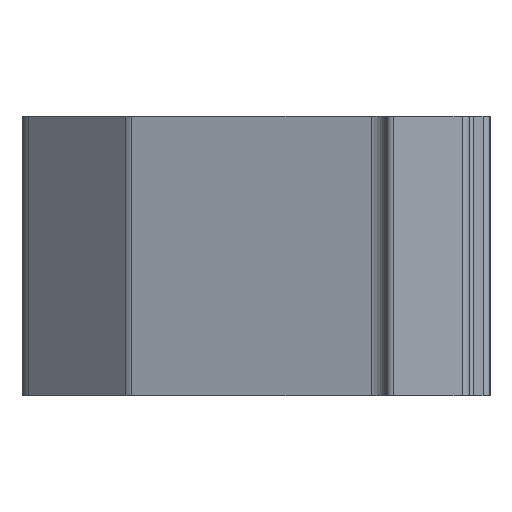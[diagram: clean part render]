
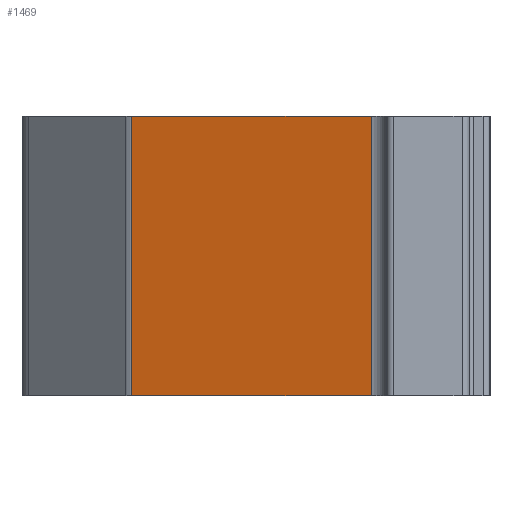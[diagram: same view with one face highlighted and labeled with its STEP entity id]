
A CAD part, front view. The second image highlights one B-rep face of the part: STEP entity #1469.
In plain terms, the highlighted planar face has unit normal (-0.258, -0.966, 0).
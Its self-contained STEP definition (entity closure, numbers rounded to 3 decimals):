
#47 = DIRECTION ( 'NONE',  ( 0.966, -0.258, 0. ) ) ;
#64 = EDGE_CURVE ( 'NONE', #1033, #815, #654, .T. ) ;
#99 = ORIENTED_EDGE ( 'NONE', *, *, #64, .T. ) ;
#138 = ORIENTED_EDGE ( 'NONE', *, *, #1009, .T. ) ;
#353 = EDGE_CURVE ( 'NONE', #361, #905, #946, .T. ) ;
#361 = VERTEX_POINT ( 'NONE', #817 ) ;
#408 = PLANE ( 'NONE',  #549 ) ;
#453 = DIRECTION ( 'NONE',  ( 0., 0., -1. ) ) ;
#475 = ORIENTED_EDGE ( 'NONE', *, *, #665, .F. ) ;
#509 = FACE_OUTER_BOUND ( 'NONE', #918, .T. ) ;
#535 = DIRECTION ( 'NONE',  ( 0., 0., -1. ) ) ;
#549 = AXIS2_PLACEMENT_3D ( 'NONE', #1200, #1315, #1312 ) ;
#569 = LINE ( 'NONE', #1122, #1034 ) ;
#654 = LINE ( 'NONE', #1236, #1112 ) ;
#665 = EDGE_CURVE ( 'NONE', #1033, #361, #1611, .T. ) ;
#815 = VERTEX_POINT ( 'NONE', #933 ) ;
#817 = CARTESIAN_POINT ( 'NONE',  ( 21.336, -25.248, 20. ) ) ;
#862 = DIRECTION ( 'NONE',  ( 0.966, -0.258, 0. ) ) ;
#905 = VERTEX_POINT ( 'NONE', #1452 ) ;
#918 = EDGE_LOOP ( 'NONE', ( #138, #1642, #475, #99 ) ) ;
#933 = CARTESIAN_POINT ( 'NONE',  ( 4.216, -20.683, 0. ) ) ;
#946 = LINE ( 'NONE', #1453, #1215 ) ;
#989 = VECTOR ( 'NONE', #862, 1000. ) ;
#1009 = EDGE_CURVE ( 'NONE', #815, #905, #569, .T. ) ;
#1033 = VERTEX_POINT ( 'NONE', #1615 ) ;
#1034 = VECTOR ( 'NONE', #47, 1000. ) ;
#1112 = VECTOR ( 'NONE', #453, 1000. ) ;
#1122 = CARTESIAN_POINT ( 'NONE',  ( 4.216, -20.683, 0. ) ) ;
#1200 = CARTESIAN_POINT ( 'NONE',  ( 4.216, -20.683, 20. ) ) ;
#1215 = VECTOR ( 'NONE', #535, 1000. ) ;
#1236 = CARTESIAN_POINT ( 'NONE',  ( 4.216, -20.683, 20. ) ) ;
#1312 = DIRECTION ( 'NONE',  ( -0.966, 0.258, 0. ) ) ;
#1315 = DIRECTION ( 'NONE',  ( 0.258, 0.966, 0. ) ) ;
#1452 = CARTESIAN_POINT ( 'NONE',  ( 21.336, -25.248, 0. ) ) ;
#1453 = CARTESIAN_POINT ( 'NONE',  ( 21.336, -25.248, 20. ) ) ;
#1469 = ADVANCED_FACE ( 'NONE', ( #509 ), #408, .F. ) ;
#1519 = CARTESIAN_POINT ( 'NONE',  ( 4.216, -20.683, 20. ) ) ;
#1611 = LINE ( 'NONE', #1519, #989 ) ;
#1615 = CARTESIAN_POINT ( 'NONE',  ( 4.216, -20.683, 20. ) ) ;
#1642 = ORIENTED_EDGE ( 'NONE', *, *, #353, .F. ) ;
